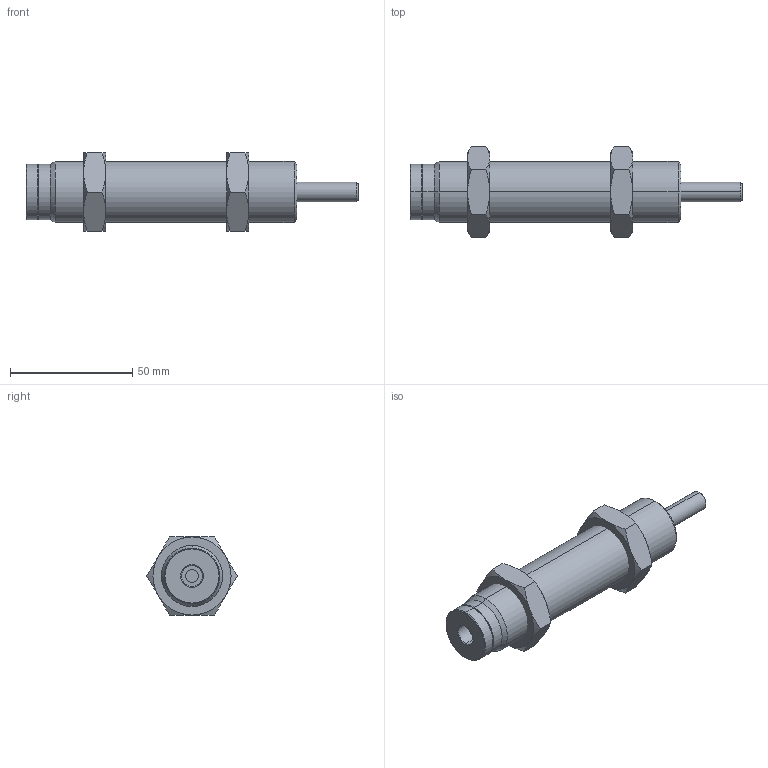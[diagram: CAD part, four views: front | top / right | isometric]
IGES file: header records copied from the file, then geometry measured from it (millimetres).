
Start section: SolidWorks IGES file using analytic representation for surfaces
Global section: file name: D:\IGS跡宒\AC2525-N.IGS,1; native system: 5HSolidWorks 2013; preprocessor: SolidWorks 2013; author: Administrator; date: 160406.152248; units: inch
Bounding box: 136 x 36.95 x 32 mm (x, y, z)
Surface area: 15825.3 mm2 (no closed solid volume)
Topology: 0 solids, 0 shells, 86 faces, 1264 edges, 1264 vertices
Faces by surface type: revolution 64, bspline 22
